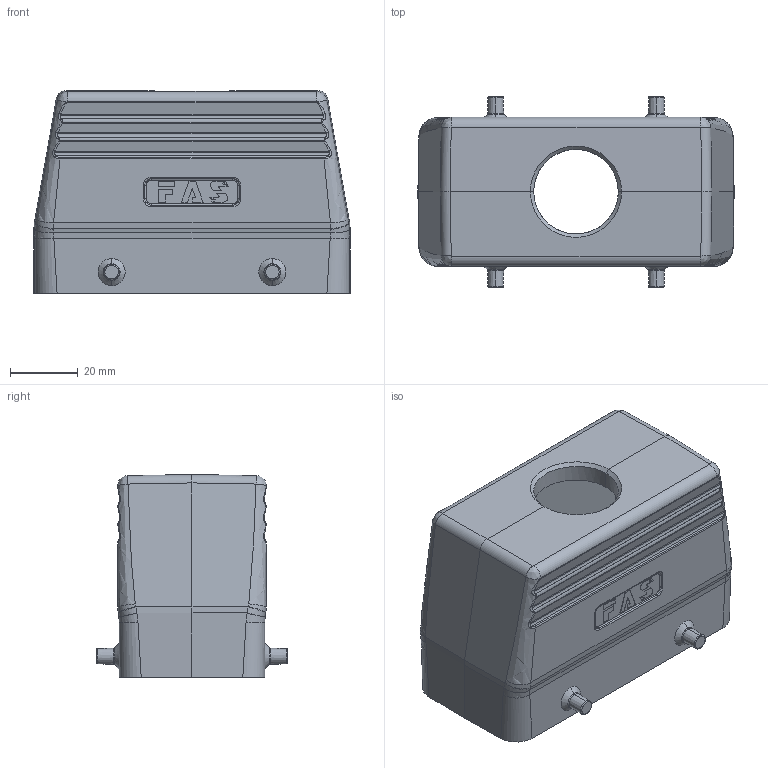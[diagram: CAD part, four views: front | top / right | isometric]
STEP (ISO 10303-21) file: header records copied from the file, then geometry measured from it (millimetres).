
FILE_DESCRIPTION (( 'STEP AP203' ), '1' );
FILE_NAME ('H16B-TG-M25 20-11-20.STEP', '2020-11-20T06:50:51', ( '' ), ( '' ), 'SwSTEP 2.0', 'SolidWorks 2016', '' );
FILE_SCHEMA (( 'CONFIG_CONTROL_DESIGN' ));
Length unit declared in the file: millimetre
Products named in the file (1): H16B-TG-M25 20-11-20
Bounding box: 93.5 x 56.4 x 60 mm (x, y, z)
Volume: 72896.6 mm3; surface area: 34595.9 mm2
Topology: 1 solids, 1 shells, 525 faces, 1279 edges, 784 vertices
Faces by surface type: plane 168, bspline 166, cylinder 143, cone 48
Entity records: 24728 total; most frequent: CARTESIAN_POINT 13761, ORIENTED_EDGE 2558, DIRECTION 1850, EDGE_CURVE 1279, VERTEX_POINT 784, AXIS2_PLACEMENT_3D 650, EDGE_LOOP 555, VECTOR 550
